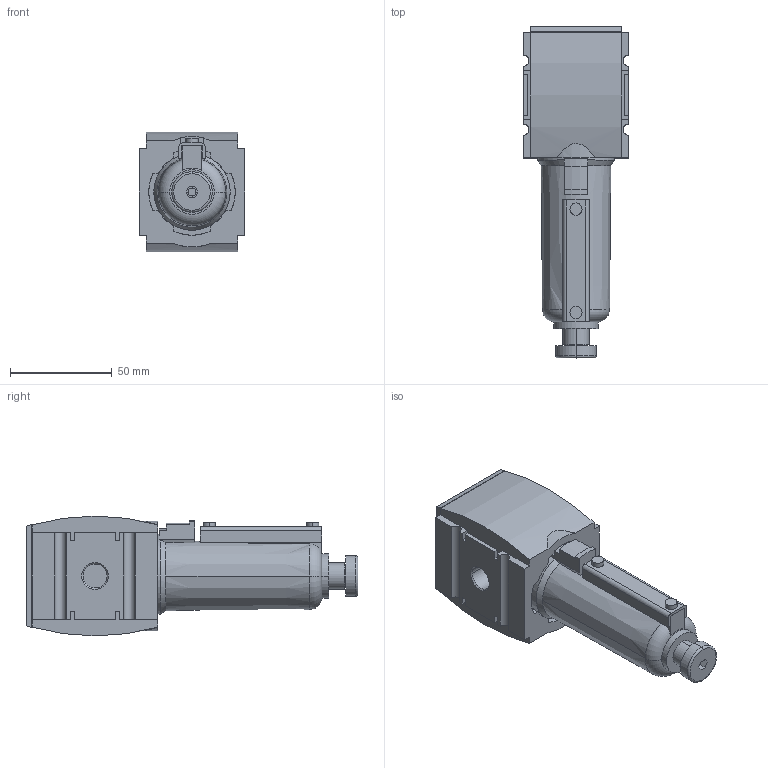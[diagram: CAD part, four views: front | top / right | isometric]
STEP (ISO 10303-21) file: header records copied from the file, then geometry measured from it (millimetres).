
FILE_DESCRIPTION((''),'2;1');
FILE_NAME('R412006006_ASM','2019-05-31T',('hug2hc'),(''),'CREO PARAMETRIC BY PTC INC, 2016260','CREO PARAMETRIC BY PTC INC, 2016260','');
FILE_SCHEMA(('CONFIG_CONTROL_DESIGN'));
Length unit declared in the file: millimetre
Products named in the file (4): R412006006; AS2_RES_METAL_FILTER_SEMI; AS2_DRAIN_KNOB_METAL; R412006006_ASM
Assembly tree (3 placements, depth 2):
  R412006006_ASM
    R412006006
    AS2_RES_METAL_FILTER_SEMI
    AS2_DRAIN_KNOB_METAL
Bounding box: 52 x 163.5 x 59 mm (x, y, z)
Volume: 255235.5 mm3; surface area: 43740.5 mm2
Topology: 3 solids, 3 shells, 190 faces, 487 edges, 320 vertices
Faces by surface type: plane 128, cylinder 47, cone 11, torus 4
Entity records: 6139 total; most frequent: CARTESIAN_POINT 1148, DIRECTION 1004, ORIENTED_EDGE 974, EDGE_CURVE 487, VECTOR 344, LINE 344, AXIS2_PLACEMENT_3D 330, VERTEX_POINT 320
